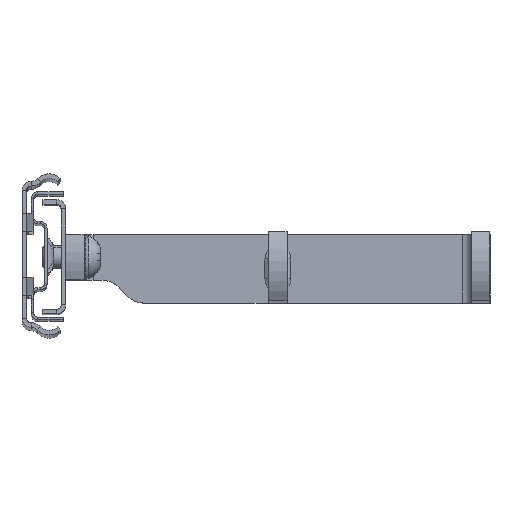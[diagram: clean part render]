
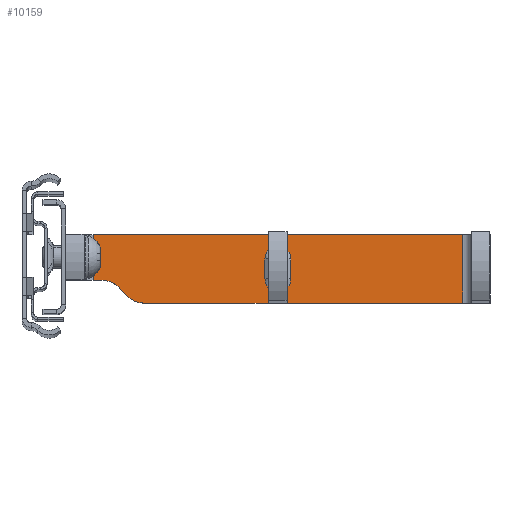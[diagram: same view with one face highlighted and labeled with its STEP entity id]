
A CAD part, top view. The second image highlights one B-rep face of the part: STEP entity #10159.
In plain terms, the highlighted planar face has unit normal (0, 0, 1) as drawn and (-1, 0, 0) by its records, which use the part's own axes.
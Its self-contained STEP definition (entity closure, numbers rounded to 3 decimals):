
#9420=DIRECTION('',(0.,0.,-1.));
#9421=VECTOR('',#9420,10.);
#9422=CARTESIAN_POINT('',(388.,-83.,2.5));
#9423=LINE('',#9422,#9421);
#9424=DIRECTION('',(0.,1.,0.));
#9425=VECTOR('',#9424,81.);
#9426=CARTESIAN_POINT('',(388.,-83.,-7.5));
#9427=LINE('',#9426,#9425);
#9428=DIRECTION('',(0.,-1.,0.));
#9429=VECTOR('',#9428,69.929);
#9430=CARTESIAN_POINT('',(388.,-2.,7.5));
#9431=LINE('',#9430,#9429);
#9432=CARTESIAN_POINT('',(388.,-71.929,2.5));
#9433=DIRECTION('',(1.,0.,0.));
#9434=DIRECTION('',(0.,0.,1.));
#9435=AXIS2_PLACEMENT_3D('',#9432,#9433,#9434);
#9437=DIRECTION('',(0.,-0.707,-0.707));
#9438=VECTOR('',#9437,2.929);
#9439=CARTESIAN_POINT('',(388.,-75.464,6.036));
#9440=LINE('',#9439,#9438);
#9441=CARTESIAN_POINT('',(388.,-81.071,7.5));
#9442=DIRECTION('',(-1.,0.,0.));
#9443=DIRECTION('',(0.,0.707,-0.707));
#9444=AXIS2_PLACEMENT_3D('',#9441,#9442,#9443);
#9446=DIRECTION('',(0.,-1.,0.));
#9447=VECTOR('',#9446,1.929);
#9448=CARTESIAN_POINT('',(388.,-81.071,2.5));
#9449=LINE('',#9448,#9447);
#9450=CARTESIAN_POINT('',(388.,-42.5,2.165));
#9451=DIRECTION('',(-1.,0.,0.));
#9452=DIRECTION('',(0.,-1.,0.));
#9453=AXIS2_PLACEMENT_3D('',#9450,#9451,#9452);
#9455=CARTESIAN_POINT('',(388.,-42.5,-2.165));
#9456=DIRECTION('',(-1.,0.,0.));
#9457=DIRECTION('',(0.,1.,0.));
#9458=AXIS2_PLACEMENT_3D('',#9455,#9456,#9457);
#9460=DIRECTION('',(0.,0.,1.));
#9461=VECTOR('',#9460,4.33);
#9462=CARTESIAN_POINT('',(388.,-45.335,-2.165));
#9463=LINE('',#9462,#9461);
#9464=DIRECTION('',(0.,0.,-1.));
#9465=VECTOR('',#9464,15.);
#9466=CARTESIAN_POINT('',(388.,-2.,7.5));
#9467=LINE('',#9466,#9465);
#9534=DIRECTION('',(0.,0.,-1.));
#9535=VECTOR('',#9534,4.33);
#9536=CARTESIAN_POINT('',(388.,-39.665,2.165));
#9537=LINE('',#9536,#9535);
#9661=CARTESIAN_POINT('',(388.,-77.535,3.964));
#9662=CARTESIAN_POINT('',(388.,-81.071,2.5));
#9663=VERTEX_POINT('',#9661);
#9664=VERTEX_POINT('',#9662);
#9665=CARTESIAN_POINT('',(388.,-75.464,6.036));
#9666=VERTEX_POINT('',#9665);
#9689=CARTESIAN_POINT('',(388.,-71.929,7.5));
#9690=VERTEX_POINT('',#9689);
#9699=CARTESIAN_POINT('',(388.,-2.,-7.5));
#9701=VERTEX_POINT('',#9699);
#9703=CARTESIAN_POINT('',(388.,-2.,7.5));
#9704=VERTEX_POINT('',#9703);
#9709=CARTESIAN_POINT('',(388.,-83.,-7.5));
#9710=VERTEX_POINT('',#9709);
#9713=CARTESIAN_POINT('',(388.,-83.,2.5));
#9714=VERTEX_POINT('',#9713);
#9745=CARTESIAN_POINT('',(388.,-45.335,-2.165));
#9746=VERTEX_POINT('',#9745);
#9747=CARTESIAN_POINT('',(388.,-45.335,2.165));
#9748=VERTEX_POINT('',#9747);
#9753=CARTESIAN_POINT('',(388.,-39.665,2.165));
#9754=VERTEX_POINT('',#9753);
#9755=CARTESIAN_POINT('',(388.,-39.665,-2.165));
#9756=VERTEX_POINT('',#9755);
#10133=CARTESIAN_POINT('',(388.,389.236,0.));
#10134=DIRECTION('',(1.,0.,0.));
#10135=DIRECTION('',(0.,-1.,0.));
#10136=AXIS2_PLACEMENT_3D('',#10133,#10134,#10135);
#10137=PLANE('',#10136);
#10138=ORIENTED_EDGE('',*,*,#10127,.T.);
#10139=ORIENTED_EDGE('',*,*,#9909,.T.);
#10141=ORIENTED_EDGE('',*,*,#10140,.F.);
#10142=ORIENTED_EDGE('',*,*,#9993,.T.);
#10143=ORIENTED_EDGE('',*,*,#10006,.T.);
#10144=ORIENTED_EDGE('',*,*,#10020,.T.);
#10145=ORIENTED_EDGE('',*,*,#10034,.T.);
#10146=ORIENTED_EDGE('',*,*,#10048,.T.);
#10147=EDGE_LOOP('',(#10138,#10139,#10141,#10142,#10143,#10144,#10145,#10146));
#10148=FACE_OUTER_BOUND('',#10147,.F.);
#10150=ORIENTED_EDGE('',*,*,#10149,.T.);
#10152=ORIENTED_EDGE('',*,*,#10151,.T.);
#10154=ORIENTED_EDGE('',*,*,#10153,.T.);
#10156=ORIENTED_EDGE('',*,*,#10155,.T.);
#10157=EDGE_LOOP('',(#10150,#10152,#10154,#10156));
#10158=FACE_BOUND('',#10157,.F.);
#9436=CIRCLE('',#9435,5.);
#9445=CIRCLE('',#9444,5.);
#9454=CIRCLE('',#9453,2.835);
#9459=CIRCLE('',#9458,2.835);
#9909=EDGE_CURVE('',#9710,#9701,#9427,.T.);
#9993=EDGE_CURVE('',#9704,#9690,#9431,.T.);
#10006=EDGE_CURVE('',#9690,#9666,#9436,.T.);
#10020=EDGE_CURVE('',#9666,#9663,#9440,.T.);
#10034=EDGE_CURVE('',#9663,#9664,#9445,.T.);
#10048=EDGE_CURVE('',#9664,#9714,#9449,.T.);
#10127=EDGE_CURVE('',#9714,#9710,#9423,.T.);
#10140=EDGE_CURVE('',#9704,#9701,#9467,.T.);
#10149=EDGE_CURVE('',#9748,#9754,#9454,.T.);
#10151=EDGE_CURVE('',#9754,#9756,#9537,.T.);
#10153=EDGE_CURVE('',#9756,#9746,#9459,.T.);
#10155=EDGE_CURVE('',#9746,#9748,#9463,.T.);
#10159=ADVANCED_FACE('',(#10148,#10158),#10137,.F.);
